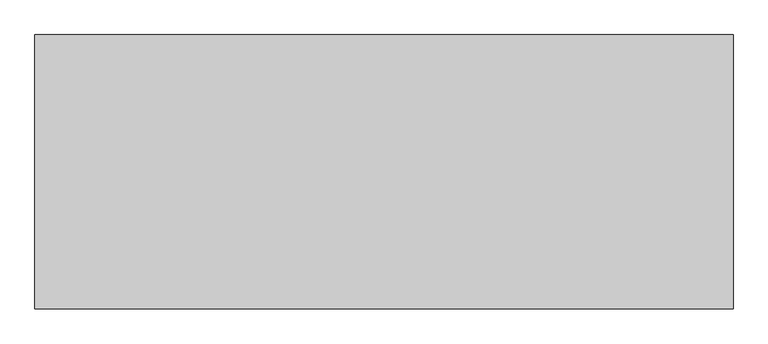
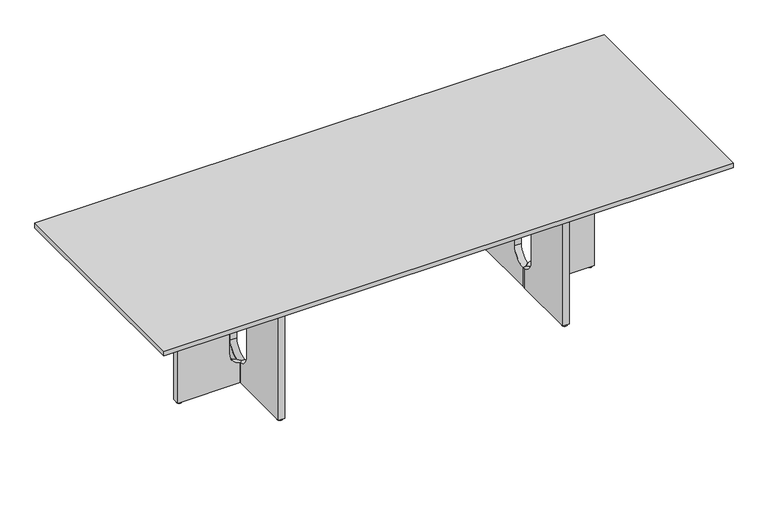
"""IFC4 building model written with IfcOpenShell, lengths in millimetres: furniture geometry, Audo Copenhagen - Androgyne - Dining Table Rectangular - 278 : Audo Copenhagen - Androgyne - Dining Table Rectangular - 278."""

from ifc_helpers import new_model, si_unit, point, frame, frame_2d, origin, origin_with_axes, place, context, project, spatial, polyline, circle_curve, ellipse_curve, trimmed, segment, composite_curve, outline, extrude, source, transform, mapped, element, save
from ifc_brep_helpers import plane_surface, revolved_surface, advanced_brep


def furniture_f7959ec2(model_context):
    return source(origin(), model_context, "Body", "SolidModel", [
        advanced_brep(
        [(683.9999953, -70.0, 177.0), (715.9999953, -70.0, 177.0), (716.0, -16.0000002, 108.8530999), (699.9999977, -2.6e-06, 107.0), (684.0, -2.6e-06, 107.0), (684.0, -16.0000002, 108.8530999), (684.0, -70.0, 538.0), (715.9999953, -70.0, 538.0), (684.0, -16.0000002, 606.1469001), (684.0, -2.6e-06, 608.0), (699.9999977, -2.6e-06, 608.0), (716.0, -16.0000002, 606.1469001), (716.0, -340.0, 708.0), (716.0, -16.0000002, 708.0), (699.9999977, -2.6e-06, 708.0), (684.0, -2.6e-06, 708.0), (684.0, -16.0000002, 708.0), (684.0, -340.0, 708.0), (716.0, -340.0, 7.0), (684.0, -340.0, 7.0), (684.0, -16.0000002, 7.0), (684.0, -2.6e-06, 7.0), (699.9999977, -2.6e-06, 7.0), (716.0, -16.0000002, 7.0)],
        [
            (0, 1),
            (1, 2, circle_curve(frame((716.0, 0.0, 177.0), z_axis=(1.0, 0.0, 0.0), x_axis=(0.0, 1.0, 0.0)), 70.0)),
            (2, 3, ellipse_curve(frame((699.9999951, 0.0, 177.0), z_axis=(0.7071066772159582, 0.7071068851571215, 0.0), x_axis=(0.7071068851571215, -0.7071066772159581, 0.0)), 98.9949639, 70.0)),
            (3, 4),
            (4, 5, circle_curve(frame((684.0, 0.0, 177.0), z_axis=(-1.0, 0.0, 0.0), x_axis=(0.0, 1.0, 0.0)), 70.0)),
            (5, 0, circle_curve(frame((684.0, 0.0, 177.0), z_axis=(-1.0, 0.0, 0.0), x_axis=(0.0, 1.0, 0.0)), 70.0)),
            (0, 6),
            (6, 7),
            (7, 1),
            (6, 8, circle_curve(frame((684.0, 0.0, 538.0), z_axis=(-1.0, 0.0, 0.0), x_axis=(0.0, 1.0, 0.0)), 70.0)),
            (8, 9, circle_curve(frame((684.0, 0.0, 538.0), z_axis=(-1.0, 0.0, 0.0), x_axis=(0.0, 1.0, 0.0)), 70.0)),
            (9, 10),
            (10, 11, ellipse_curve(frame((699.9999951, 0.0, 538.0), z_axis=(0.7071066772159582, 0.7071068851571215, 0.0), x_axis=(0.7071068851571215, -0.7071066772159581, 0.0)), 98.9949639, 70.0)),
            (11, 7, circle_curve(frame((716.0, 0.0, 538.0), z_axis=(1.0, 0.0, 0.0), x_axis=(0.0, 1.0, 0.0)), 70.0)),
            (12, 13),
            (13, 14),
            (14, 15),
            (15, 16),
            (16, 17),
            (17, 12),
            (18, 19),
            (19, 20),
            (20, 21),
            (21, 22),
            (22, 23),
            (23, 18),
            (12, 18),
            (23, 2),
            (11, 13),
            (16, 8),
            (5, 20),
            (19, 17),
            (10, 14),
            (22, 3),
            (15, 9),
            (4, 21),
        ],
        [
            revolved_surface(polyline([(770.0000156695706, 70.0, 177.0), (629.9999745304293, 70.0, 177.0)]), (683.9999953, 0.0, 177.0), (1.0, 0.0, 0.0)),
            plane_surface(frame((715.9999953, -70.0, 538.0), z_axis=(0.0, 1.0, 0.0), x_axis=(-1.0, 0.0, 0.0))),
            revolved_surface(polyline([(770.0000156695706, 70.0, 538.0), (629.9999745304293, 70.0, 538.0)]), (683.9999953, 0.0, 538.0), (1.0, 0.0, 0.0)),
            plane_surface(frame((716.0, -444.0000002, 708.0), z_axis=(0.0, 0.0, 1.0), x_axis=(0.0, 1.0, 0.0))),
            plane_surface(frame((716.0, -444.0000002, 7.0), z_axis=(0.0, 0.0, -1.0), x_axis=(0.0, -1.0, 0.0))),
            plane_surface(frame((716.0, -340.0, 708.0), z_axis=(1.0, 0.0, 0.0), x_axis=(0.0, 0.0, -1.0))),
            plane_surface(frame((684.0, -16.0000002, 708.0), z_axis=(-1.0, 0.0, 0.0), x_axis=(0.0, 0.0, -1.0))),
            plane_surface(frame((684.0, -340.0, 708.0), z_axis=(0.0, -1.0, 0.0), x_axis=(0.0, 0.0, -1.0))),
            plane_surface(frame((716.0, -16.0000002, 708.0), z_axis=(0.7071066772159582, 0.7071068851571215, 0.0), x_axis=(0.0, 0.0, -1.0))),
            plane_surface(frame((684.0, -2.6e-06, 708.0), z_axis=(-1.0, 0.0, 0.0), x_axis=(0.0, 0.0, -1.0))),
            plane_surface(frame((699.9999977, -2.6e-06, 708.0), z_axis=(0.0, 1.0, 0.0), x_axis=(0.0, 0.0, -1.0))),
        ],
        [
            (0, [[1, 2, 3, 4, 5, 6]]),
            (1, [[-1, 7, 8, 9]]),
            (2, [[-8, 10, 11, 12, 13, 14]]),
            (3, [[15, 16, 17, 18, 19, 20]]),
            (4, [[21, 22, 23, 24, 25, 26]]),
            (5, [[-15, 27, -26, 28, -2, -9, -14, 29]]),
            (6, [[-19, 30, -10, -7, -6, 31, -22, 32]]),
            (7, [[-20, -32, -21, -27]]),
            (8, [[-16, -29, -13, 33]]),
            (8, [[-25, 34, -3, -28]]),
            (9, [[-18, 35, -11, -30]]),
            (9, [[-23, -31, -5, 36]]),
            (10, [[-17, -33, -12, -35]]),
            (10, [[-24, -36, -4, -34]]),
        ],
    ),
        advanced_brep(
        [(715.9999953, 70.0, 538.0), (683.9999953, 70.0, 538.0), (684.0, 70.0, 177.0), (715.9999953, 70.0, 177.0), (684.0, 2.6e-06, 107.0), (699.9999977, 2.6e-06, 107.0), (716.0, 16.0000002, 108.8530999), (716.0, 16.0000002, 606.1469001), (699.9999977, 2.6e-06, 608.0), (684.0, 2.6e-06, 608.0), (716.0, 340.0, 708.0), (684.0, 340.0, 708.0), (684.0, 2.6e-06, 708.0), (699.9999977, 2.6e-06, 708.0), (716.0, 16.0000002, 708.0), (716.0, 340.0, 7.0), (716.0, 16.0000002, 7.0), (699.9999977, 2.6e-06, 7.0), (684.0, 2.6e-06, 7.0), (684.0, 340.0, 7.0)],
        [
            (0, 1),
            (1, 2),
            (2, 3),
            (3, 0),
            (2, 4, circle_curve(frame((684.0, 0.0, 177.0), z_axis=(-1.0, 0.0, 0.0), x_axis=(0.0, -1.0, 0.0)), 70.0)),
            (4, 5),
            (5, 6, ellipse_curve(frame((699.9999951, 0.0, 177.0), z_axis=(0.7071066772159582, -0.7071068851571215, 0.0), x_axis=(0.7071068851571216, 0.7071066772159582, 0.0)), 98.9949639, 70.0)),
            (6, 3, circle_curve(frame((716.0, 0.0, 177.0), z_axis=(1.0, 0.0, 0.0), x_axis=(0.0, -1.0, 0.0)), 70.0)),
            (0, 7, circle_curve(frame((716.0, 0.0, 538.0), z_axis=(1.0, 0.0, 0.0), x_axis=(0.0, -1.0, 0.0)), 70.0)),
            (7, 8, ellipse_curve(frame((699.9999951, 0.0, 538.0), z_axis=(0.7071066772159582, -0.7071068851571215, 0.0), x_axis=(0.7071068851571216, 0.7071066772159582, 0.0)), 98.9949639, 70.0)),
            (8, 9),
            (9, 1, circle_curve(frame((684.0, 0.0, 538.0), z_axis=(-1.0, 0.0, 0.0), x_axis=(0.0, -1.0, 0.0)), 70.0)),
            (10, 11),
            (11, 12),
            (12, 13),
            (13, 14),
            (14, 10),
            (15, 16),
            (16, 17),
            (17, 18),
            (18, 19),
            (19, 15),
            (14, 7),
            (6, 16),
            (15, 10),
            (11, 19),
            (18, 4),
            (9, 12),
            (13, 8),
            (5, 17),
        ],
        [
            plane_surface(frame((715.9999953, 70.0, 177.0), z_axis=(0.0, -1.0, 0.0), x_axis=(-1.0, 0.0, 0.0))),
            revolved_surface(polyline([(770.0000156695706, -70.0, 177.0), (629.9999745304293, -70.0, 177.0)]), (683.9999953, 0.0, 177.0), (1.0, 0.0, 0.0)),
            revolved_surface(polyline([(770.0000156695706, -70.0, 538.0), (629.9999745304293, -70.0, 538.0)]), (683.9999953, 0.0, 538.0), (1.0, 0.0, 0.0)),
            plane_surface(frame((685.0, 340.0, 708.0), z_axis=(0.0, 0.0, 1.0), x_axis=(-1.0, 0.0, 0.0))),
            plane_surface(frame((685.0, 340.0, 7.0), z_axis=(0.0, 0.0, -1.0), x_axis=(1.0, 0.0, 0.0))),
            plane_surface(frame((716.0, 16.0000002, 708.0), z_axis=(1.0, 0.0, 0.0), x_axis=(0.0, 0.0, -1.0))),
            plane_surface(frame((684.0, 340.0, 708.0), z_axis=(-1.0, 0.0, 0.0), x_axis=(0.0, 0.0, -1.0))),
            plane_surface(frame((716.0, 340.0, 708.0), z_axis=(0.0, 1.0, 0.0), x_axis=(0.0, 0.0, -1.0))),
            plane_surface(frame((699.9999977, 2.6e-06, 708.0), z_axis=(0.7071066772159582, -0.7071068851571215, 0.0), x_axis=(0.0, 0.0, -1.0))),
            plane_surface(frame((684.0, 2.6e-06, 708.0), z_axis=(0.0, -1.0, 0.0), x_axis=(0.0, 0.0, -1.0))),
        ],
        [
            (0, [[1, 2, 3, 4]]),
            (1, [[-3, 5, 6, 7, 8]]),
            (2, [[-1, 9, 10, 11, 12]]),
            (3, [[13, 14, 15, 16, 17]]),
            (4, [[18, 19, 20, 21, 22]]),
            (5, [[-17, 23, -9, -4, -8, 24, -18, 25]]),
            (6, [[-14, 26, -21, 27, -5, -2, -12, 28]]),
            (7, [[-13, -25, -22, -26]]),
            (8, [[-16, 29, -10, -23]]),
            (8, [[-19, -24, -7, 30]]),
            (9, [[-15, -28, -11, -29]]),
            (9, [[-20, -30, -6, -27]]),
        ],
    ),
        advanced_brep(
        [(1023.9999953, -16.0, 708.0), (1023.9999953, 16.0, 708.0), (715.9999953, 16.0, 708.0), (699.9999977, 2.3e-06, 708.0), (715.9999953, -16.0, 708.0), (1023.9999953, -16.0, 7.0), (715.9999953, -16.0, 7.0), (699.9999977, 2.3e-06, 7.0), (715.9999953, 16.0, 7.0), (1023.9999953, 16.0, 7.0), (715.9999953, -16.0, 606.1469001), (769.9999953, -16.0, 538.0), (769.9999953, -16.0, 177.0), (715.9999953, -16.0, 108.8530999), (715.9999953, 16.0, 108.8530999), (769.9999953, 16.0, 177.0), (769.9999953, 16.0, 538.0), (715.9999953, 16.0, 606.1469001), (699.9999977, 2.3e-06, 608.0), (699.9999977, 2.3e-06, 107.0)],
        [
            (0, 1),
            (1, 2),
            (2, 3),
            (3, 4),
            (4, 0),
            (5, 6),
            (6, 7),
            (7, 8),
            (8, 9),
            (9, 5),
            (4, 10),
            (10, 11, circle_curve(frame((699.9999953, -16.0, 538.0), z_axis=(0.0, 1.0, 0.0), x_axis=(-1.0, 0.0, 0.0)), 70.0)),
            (11, 12),
            (12, 13, circle_curve(frame((699.9999953, -16.0, 177.0), z_axis=(0.0, 1.0, 0.0), x_axis=(-1.0, 0.0, 0.0)), 70.0)),
            (13, 6),
            (5, 0),
            (1, 9),
            (8, 14),
            (14, 15, circle_curve(frame((699.9999953, 16.0, 177.0), z_axis=(0.0, -1.0, 0.0), x_axis=(-1.0, 0.0, 0.0)), 70.0)),
            (15, 16),
            (16, 17, circle_curve(frame((699.9999953, 16.0, 538.0), z_axis=(0.0, -1.0, 0.0), x_axis=(-1.0, 0.0, 0.0)), 70.0)),
            (17, 2),
            (3, 18),
            (18, 10, ellipse_curve(frame((699.9999953, 4.7e-06, 538.0), z_axis=(0.7071068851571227, 0.7071066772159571, 0.0), x_axis=(0.7071066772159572, -0.7071068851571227, 0.0)), 98.9949639, 70.0)),
            (13, 19, ellipse_curve(frame((699.9999953, 4.7e-06, 177.0), z_axis=(0.7071068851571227, 0.7071066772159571, 0.0), x_axis=(0.7071066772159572, -0.7071068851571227, 0.0)), 98.9949639, 70.0)),
            (19, 7),
            (17, 18, ellipse_curve(frame((699.9999953, -2e-07, 538.0), z_axis=(0.707106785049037, -0.7071067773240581, 0.0), x_axis=(-0.707106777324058, -0.7071067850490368, 0.0)), 98.9949499, 70.0)),
            (19, 14, ellipse_curve(frame((699.9999953, -2e-07, 177.0), z_axis=(0.707106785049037, -0.7071067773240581, 0.0), x_axis=(-0.707106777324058, -0.7071067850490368, 0.0)), 98.9949499, 70.0)),
            (11, 16),
            (15, 12),
        ],
        [
            plane_surface(frame((1023.9999953, 15.0, 708.0), z_axis=(0.0, 0.0, 1.0), x_axis=(0.0, 1.0, 0.0))),
            plane_surface(frame((1023.9999953, 15.0, 7.0), z_axis=(0.0, 0.0, -1.0), x_axis=(0.0, -1.0, 0.0))),
            plane_surface(frame((715.9999953, -16.0, 708.0), z_axis=(0.0, -1.0, 0.0), x_axis=(0.0, 0.0, -1.0))),
            plane_surface(frame((1023.9999953, 16.0, 708.0), z_axis=(0.0, 1.0, 0.0), x_axis=(0.0, 0.0, -1.0))),
            plane_surface(frame((1023.9999953, -16.0, 708.0), z_axis=(1.0, 0.0, 0.0), x_axis=(0.0, 0.0, -1.0))),
            plane_surface(frame((699.9999977, 2.3e-06, 708.0), z_axis=(-0.7071068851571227, -0.7071066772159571, 0.0), x_axis=(0.0, 0.0, -1.0))),
            plane_surface(frame((715.9999953, 16.0, 708.0), z_axis=(-0.707106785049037, 0.7071067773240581, 0.0), x_axis=(0.0, 0.0, -1.0))),
            plane_surface(frame((769.9999953, -16.0, 177.0), z_axis=(-1.0, 0.0, 0.0), x_axis=(0.0, 1.0, 0.0))),
            revolved_surface(polyline([(629.9999953, -70.0000158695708, 177.0), (629.9999953, 70.00002526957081, 177.0)]), (699.9999953, 16.0, 177.0), (0.0, -1.0, 0.0)),
            revolved_surface(polyline([(629.9999953, -70.0000158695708, 538.0), (629.9999953, 70.00002526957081, 538.0)]), (699.9999953, 16.0, 538.0), (0.0, -1.0, 0.0)),
        ],
        [
            (0, [[1, 2, 3, 4, 5]]),
            (1, [[6, 7, 8, 9, 10]]),
            (2, [[-5, 11, 12, 13, 14, 15, -6, 16]]),
            (3, [[-2, 17, -9, 18, 19, 20, 21, 22]]),
            (4, [[-1, -16, -10, -17]]),
            (5, [[-4, 23, 24, -11]]),
            (5, [[-7, -15, 25, 26]]),
            (6, [[-3, -22, 27, -23]]),
            (6, [[-8, -26, 28, -18]]),
            (7, [[29, -20, 30, -13]]),
            (8, [[-30, -19, -28, -25, -14]]),
            (9, [[-29, -12, -24, -27, -21]]),
        ],
    ),
        extrude(outline(composite_curve([segment(trimmed(circle_curve(frame_2d((699.9999906, 325.001531)), 12.5), [point((699.9999906, 337.501531))], [point((699.9999906, 312.501531))], False, "CARTESIAN"), True, "CONTINUOUS"), segment(trimmed(circle_curve(frame_2d((699.9999906, 325.001531)), 12.5), [point((699.9999906, 312.501531))], [point((699.9999906, 337.501531))], False, "CARTESIAN"), True, "CONTINUOUS")], self_intersect=False)), origin_with_axes(), (0.0, 0.0, 1.0), 7.0),
        extrude(outline(composite_curve([segment(trimmed(circle_curve(frame_2d((699.9999906, -325.001531)), 12.5), [point((699.9999906, -337.501531))], [point((699.9999906, -312.501531))], False, "CARTESIAN"), True, "CONTINUOUS"), segment(trimmed(circle_curve(frame_2d((699.9999906, -325.001531)), 12.5), [point((699.9999906, -312.501531))], [point((699.9999906, -337.501531))], False, "CARTESIAN"), True, "CONTINUOUS")], self_intersect=False)), origin_with_axes(), (0.0, 0.0, 1.0), 7.0),
        extrude(outline(composite_curve([segment(trimmed(circle_curve(frame_2d((1009.0015265, 0.0)), 12.5), [point((1021.5015265, 0.0))], [point((996.5015265, 0.0))], False, "CARTESIAN"), True, "CONTINUOUS"), segment(trimmed(circle_curve(frame_2d((1009.0015265, 0.0)), 12.5), [point((996.5015265, 0.0))], [point((1021.5015265, 0.0))], False, "CARTESIAN"), True, "CONTINUOUS")], self_intersect=False)), origin_with_axes(), (0.0, 0.0, 1.0), 7.0),
        advanced_brep(
        [(-715.9999953, 70.0, 177.0), (-683.9999953, 70.0, 177.0), (-684.0, 70.0, 538.0), (-715.9999953, 70.0, 538.0), (-716.0, 16.0000002, 108.8530999), (-699.9999977, 2.6e-06, 107.0), (-684.0, 2.6e-06, 107.0), (-684.0, 2.6e-06, 608.0), (-699.9999977, 2.6e-06, 608.0), (-716.0, 16.0000002, 606.1469001), (-716.0, 340.0, 708.0), (-716.0, 16.0000002, 708.0), (-699.9999977, 2.6e-06, 708.0), (-684.0, 2.6e-06, 708.0), (-684.0, 340.0, 708.0), (-716.0, 340.0, 7.0), (-684.0, 340.0, 7.0), (-684.0, 2.6e-06, 7.0), (-699.9999977, 2.6e-06, 7.0), (-716.0, 16.0000002, 7.0)],
        [
            (0, 1),
            (1, 2),
            (2, 3),
            (3, 0),
            (0, 4, circle_curve(frame((-716.0, 0.0, 177.0), z_axis=(-1.0, 0.0, 0.0), x_axis=(0.0, -1.0, 0.0)), 70.0)),
            (4, 5, ellipse_curve(frame((-699.9999951, 0.0, 177.0), z_axis=(-0.7071066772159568, -0.707106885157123, 0.0), x_axis=(-0.7071068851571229, 0.7071066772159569, 0.0)), 98.9949639, 70.0)),
            (5, 6),
            (6, 1, circle_curve(frame((-684.0, 0.0, 177.0), z_axis=(1.0, 0.0, 0.0), x_axis=(0.0, -1.0, 0.0)), 70.0)),
            (2, 7, circle_curve(frame((-684.0, 0.0, 538.0), z_axis=(1.0, 0.0, 0.0), x_axis=(0.0, -1.0, 0.0)), 70.0)),
            (7, 8),
            (8, 9, ellipse_curve(frame((-699.9999951, 0.0, 538.0), z_axis=(-0.7071066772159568, -0.707106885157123, 0.0), x_axis=(-0.7071068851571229, 0.7071066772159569, 0.0)), 98.9949639, 70.0)),
            (9, 3, circle_curve(frame((-716.0, 0.0, 538.0), z_axis=(-1.0, 0.0, 0.0), x_axis=(0.0, -1.0, 0.0)), 70.0)),
            (10, 11),
            (11, 12),
            (12, 13),
            (13, 14),
            (14, 10),
            (15, 16),
            (16, 17),
            (17, 18),
            (18, 19),
            (19, 15),
            (10, 15),
            (19, 4),
            (9, 11),
            (13, 7),
            (6, 17),
            (16, 14),
            (8, 12),
            (18, 5),
        ],
        [
            plane_surface(frame((-715.9999953, 70.0, 538.0), z_axis=(0.0, -1.0, 0.0), x_axis=(1.0, 0.0, 0.0))),
            revolved_surface(polyline([(-770.0000156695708, -70.0, 177.0), (-629.9999745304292, -70.0, 177.0)]), (-683.9999953, 0.0, 177.0), (-1.0, 0.0, 0.0)),
            revolved_surface(polyline([(-770.0000156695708, -70.0, 538.0), (-629.9999745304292, -70.0, 538.0)]), (-683.9999953, 0.0, 538.0), (-1.0, 0.0, 0.0)),
            plane_surface(frame((-716.0, 444.0000002, 708.0), z_axis=(0.0, 0.0, 1.0), x_axis=(0.0, -1.0, 0.0))),
            plane_surface(frame((-716.0, 444.0000002, 7.0), z_axis=(0.0, 0.0, -1.0), x_axis=(0.0, 1.0, 0.0))),
            plane_surface(frame((-716.0, 340.0, 708.0), z_axis=(-1.0, 0.0, 0.0), x_axis=(0.0, 0.0, -1.0))),
            plane_surface(frame((-684.0, 2.6e-06, 708.0), z_axis=(1.0, 0.0, 0.0), x_axis=(0.0, 0.0, -1.0))),
            plane_surface(frame((-684.0, 340.0, 708.0), z_axis=(0.0, 1.0, 0.0), x_axis=(0.0, 0.0, -1.0))),
            plane_surface(frame((-716.0, 16.0000002, 708.0), z_axis=(-0.7071066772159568, -0.707106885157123, 0.0), x_axis=(0.0, 0.0, -1.0))),
            plane_surface(frame((-699.9999977, 2.6e-06, 708.0), z_axis=(0.0, -1.0, 0.0), x_axis=(0.0, 0.0, -1.0))),
        ],
        [
            (0, [[1, 2, 3, 4]]),
            (1, [[-1, 5, 6, 7, 8]]),
            (2, [[-3, 9, 10, 11, 12]]),
            (3, [[13, 14, 15, 16, 17]]),
            (4, [[18, 19, 20, 21, 22]]),
            (5, [[-13, 23, -22, 24, -5, -4, -12, 25]]),
            (6, [[-16, 26, -9, -2, -8, 27, -19, 28]]),
            (7, [[-17, -28, -18, -23]]),
            (8, [[-14, -25, -11, 29]]),
            (8, [[-21, 30, -6, -24]]),
            (9, [[-15, -29, -10, -26]]),
            (9, [[-20, -27, -7, -30]]),
        ],
    ),
        advanced_brep(
        [(-715.9999953, -70.0, 177.0), (-683.9999953, -70.0, 177.0), (-684.0, -16.0000002, 108.8530999), (-684.0, -2.6e-06, 107.0), (-699.9999977, -2.6e-06, 107.0), (-716.0, -16.0000002, 108.8530999), (-716.0, -70.0, 538.0), (-683.9999953, -70.0, 538.0), (-716.0, -16.0000002, 606.1469001), (-699.9999977, -2.6e-06, 608.0), (-684.0, -2.6e-06, 608.0), (-684.0, -16.0000002, 606.1469001), (-716.0, -340.0, 708.0), (-684.0, -340.0, 708.0), (-684.0, -16.0000002, 708.0), (-684.0, -2.6e-06, 708.0), (-699.9999977, -2.6e-06, 708.0), (-716.0, -16.0000002, 708.0), (-716.0, -340.0, 7.0), (-716.0, -16.0000002, 7.0), (-699.9999977, -2.6e-06, 7.0), (-684.0, -2.6e-06, 7.0), (-684.0, -16.0000002, 7.0), (-684.0, -340.0, 7.0)],
        [
            (0, 1),
            (1, 2, circle_curve(frame((-684.0, 0.0, 177.0), z_axis=(1.0, 0.0, 0.0), x_axis=(0.0, 1.0, 0.0)), 70.0)),
            (2, 3, circle_curve(frame((-684.0, 0.0, 177.0), z_axis=(1.0, 0.0, 0.0), x_axis=(0.0, 1.0, 0.0)), 70.0)),
            (3, 4),
            (4, 5, ellipse_curve(frame((-699.9999951, 0.0, 177.0), z_axis=(-0.7071066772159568, 0.707106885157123, 0.0), x_axis=(-0.707106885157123, -0.707106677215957, 0.0)), 98.9949639, 70.0)),
            (5, 0, circle_curve(frame((-716.0, 0.0, 177.0), z_axis=(-1.0, 0.0, 0.0), x_axis=(0.0, 1.0, 0.0)), 70.0)),
            (0, 6),
            (6, 7),
            (7, 1),
            (6, 8, circle_curve(frame((-716.0, 0.0, 538.0), z_axis=(-1.0, 0.0, 0.0), x_axis=(0.0, 1.0, 0.0)), 70.0)),
            (8, 9, ellipse_curve(frame((-699.9999951, 0.0, 538.0), z_axis=(-0.7071066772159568, 0.707106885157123, 0.0), x_axis=(-0.707106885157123, -0.707106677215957, 0.0)), 98.9949639, 70.0)),
            (9, 10),
            (10, 11, circle_curve(frame((-684.0, 0.0, 538.0), z_axis=(1.0, 0.0, 0.0), x_axis=(0.0, 1.0, 0.0)), 70.0)),
            (11, 7, circle_curve(frame((-684.0, 0.0, 538.0), z_axis=(1.0, 0.0, 0.0), x_axis=(0.0, 1.0, 0.0)), 70.0)),
            (12, 13),
            (13, 14),
            (14, 15),
            (15, 16),
            (16, 17),
            (17, 12),
            (18, 19),
            (19, 20),
            (20, 21),
            (21, 22),
            (22, 23),
            (23, 18),
            (17, 8),
            (5, 19),
            (18, 12),
            (13, 23),
            (22, 2),
            (11, 14),
            (16, 9),
            (4, 20),
            (10, 15),
            (21, 3),
        ],
        [
            revolved_surface(polyline([(-770.0000156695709, 70.0, 177.0), (-629.9999745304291, 70.0, 177.0)]), (-683.9999953, 0.0, 177.0), (-1.0, 0.0, 0.0)),
            plane_surface(frame((-715.9999953, -70.0, 177.0), z_axis=(0.0, 1.0, 0.0), x_axis=(1.0, 0.0, 0.0))),
            revolved_surface(polyline([(-770.0000156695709, 70.0, 538.0), (-629.9999745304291, 70.0, 538.0)]), (-683.9999953, 0.0, 538.0), (-1.0, 0.0, 0.0)),
            plane_surface(frame((-685.0, -340.0, 708.0), z_axis=(0.0, 0.0, 1.0), x_axis=(1.0, 0.0, 0.0))),
            plane_surface(frame((-685.0, -340.0, 7.0), z_axis=(0.0, 0.0, -1.0), x_axis=(-1.0, 0.0, 0.0))),
            plane_surface(frame((-716.0, -16.0000002, 708.0), z_axis=(-1.0, 0.0, 0.0), x_axis=(0.0, 0.0, -1.0))),
            plane_surface(frame((-684.0, -340.0, 708.0), z_axis=(1.0, 0.0, 0.0), x_axis=(0.0, 0.0, -1.0))),
            plane_surface(frame((-716.0, -340.0, 708.0), z_axis=(0.0, -1.0, 0.0), x_axis=(0.0, 0.0, -1.0))),
            plane_surface(frame((-699.9999977, -2.6e-06, 708.0), z_axis=(-0.7071066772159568, 0.707106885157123, 0.0), x_axis=(0.0, 0.0, -1.0))),
            plane_surface(frame((-684.0, -16.0000002, 708.0), z_axis=(1.0, 0.0, 0.0), x_axis=(0.0, 0.0, -1.0))),
            plane_surface(frame((-684.0, -2.6e-06, 708.0), z_axis=(0.0, 1.0, 0.0), x_axis=(0.0, 0.0, -1.0))),
        ],
        [
            (0, [[1, 2, 3, 4, 5, 6]]),
            (1, [[-1, 7, 8, 9]]),
            (2, [[-8, 10, 11, 12, 13, 14]]),
            (3, [[15, 16, 17, 18, 19, 20]]),
            (4, [[21, 22, 23, 24, 25, 26]]),
            (5, [[-20, 27, -10, -7, -6, 28, -21, 29]]),
            (6, [[-16, 30, -25, 31, -2, -9, -14, 32]]),
            (7, [[-15, -29, -26, -30]]),
            (8, [[-19, 33, -11, -27]]),
            (8, [[-22, -28, -5, 34]]),
            (9, [[-17, -32, -13, 35]]),
            (9, [[-24, 36, -3, -31]]),
            (10, [[-18, -35, -12, -33]]),
            (10, [[-23, -34, -4, -36]]),
        ],
    ),
        extrude(outline(composite_curve([segment(trimmed(circle_curve(frame_2d((-699.9999906, 325.001531)), 12.5), [point((-699.9999906, 337.501531))], [point((-699.9999906, 312.501531))], False, "CARTESIAN"), True, "CONTINUOUS"), segment(trimmed(circle_curve(frame_2d((-699.9999906, 325.001531)), 12.5), [point((-699.9999906, 312.501531))], [point((-699.9999906, 337.501531))], False, "CARTESIAN"), True, "CONTINUOUS")], self_intersect=False)), origin_with_axes(), (0.0, 0.0, 1.0), 7.0),
        extrude(outline(composite_curve([segment(trimmed(circle_curve(frame_2d((-699.9999906, -325.001531)), 12.5), [point((-699.9999906, -337.501531))], [point((-699.9999906, -312.501531))], False, "CARTESIAN"), True, "CONTINUOUS"), segment(trimmed(circle_curve(frame_2d((-699.9999906, -325.001531)), 12.5), [point((-699.9999906, -312.501531))], [point((-699.9999906, -337.501531))], False, "CARTESIAN"), True, "CONTINUOUS")], self_intersect=False)), origin_with_axes(), (0.0, 0.0, 1.0), 7.0),
        extrude(outline(composite_curve([segment(trimmed(circle_curve(frame_2d((-1009.0015265, 0.0)), 12.5), [point((-1021.5015265, 0.0))], [point((-996.5015265, 0.0))], False, "CARTESIAN"), True, "CONTINUOUS"), segment(trimmed(circle_curve(frame_2d((-1009.0015265, 0.0)), 12.5), [point((-996.5015265, 0.0))], [point((-1021.5015265, 0.0))], False, "CARTESIAN"), True, "CONTINUOUS")], self_intersect=False)), origin_with_axes(), (0.0, 0.0, 1.0), 7.0),
        advanced_brep(
        [(-1023.9999953, -16.0, 708.0), (-715.9999953, -16.0, 708.0), (-699.9999977, 2.3e-06, 708.0), (-715.9999953, 16.0, 708.0), (-1023.9999953, 16.0, 708.0), (-1023.9999953, -16.0, 7.0), (-1023.9999953, 16.0, 7.0), (-715.9999953, 16.0, 7.0), (-699.9999977, 2.3e-06, 7.0), (-715.9999953, -16.0, 7.0), (-715.9999953, -16.0, 108.8530999), (-769.9999953, -16.0, 177.0), (-769.9999953, -16.0, 538.0), (-715.9999953, -16.0, 606.1469001), (-715.9999953, 16.0, 606.1469001), (-769.9999953, 16.0, 538.0), (-769.9999953, 16.0, 177.0), (-715.9999953, 16.0, 108.8530999), (-699.9999977, 2.3e-06, 107.0), (-699.9999977, 2.3e-06, 608.0)],
        [
            (0, 1),
            (1, 2),
            (2, 3),
            (3, 4),
            (4, 0),
            (5, 6),
            (6, 7),
            (7, 8),
            (8, 9),
            (9, 5),
            (0, 5),
            (9, 10),
            (10, 11, circle_curve(frame((-699.9999953, -16.0, 177.0), z_axis=(0.0, 1.0, 0.0), x_axis=(1.0, 0.0, 0.0)), 70.0)),
            (11, 12),
            (12, 13, circle_curve(frame((-699.9999953, -16.0, 538.0), z_axis=(0.0, 1.0, 0.0), x_axis=(1.0, 0.0, 0.0)), 70.0)),
            (13, 1),
            (3, 14),
            (14, 15, circle_curve(frame((-699.9999953, 16.0, 538.0), z_axis=(0.0, -1.0, 0.0), x_axis=(1.0, 0.0, 0.0)), 70.0)),
            (15, 16),
            (16, 17, circle_curve(frame((-699.9999953, 16.0, 177.0), z_axis=(0.0, -1.0, 0.0), x_axis=(1.0, 0.0, 0.0)), 70.0)),
            (17, 7),
            (6, 4),
            (11, 16),
            (15, 12),
            (10, 18, ellipse_curve(frame((-699.9999953, 4.7e-06, 177.0), z_axis=(0.7071068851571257, -0.7071066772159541, 0.0), x_axis=(-0.7071066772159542, -0.7071068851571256, 0.0)), 98.9949639, 70.0)),
            (18, 17, ellipse_curve(frame((-699.9999953, -2e-07, 177.0), z_axis=(0.707106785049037, 0.7071067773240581, 0.0), x_axis=(0.707106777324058, -0.7071067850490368, 0.0)), 98.9949499, 70.0)),
            (14, 19, ellipse_curve(frame((-699.9999953, -2e-07, 538.0), z_axis=(0.707106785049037, 0.7071067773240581, 0.0), x_axis=(0.707106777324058, -0.7071067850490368, 0.0)), 98.9949499, 70.0)),
            (19, 13, ellipse_curve(frame((-699.9999953, 4.7e-06, 538.0), z_axis=(0.7071068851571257, -0.7071066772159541, 0.0), x_axis=(-0.7071066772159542, -0.7071068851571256, 0.0)), 98.9949639, 70.0)),
            (19, 2),
            (8, 18),
        ],
        [
            plane_surface(frame((-1143.9999953, -16.0, 708.0), z_axis=(0.0, 0.0, 1.0), x_axis=(1.0, 0.0, 0.0))),
            plane_surface(frame((-1143.9999953, -16.0, 7.0), z_axis=(0.0, 0.0, -1.0), x_axis=(-1.0, 0.0, 0.0))),
            plane_surface(frame((-1023.9999953, -16.0, 708.0), z_axis=(0.0, -1.0, 0.0), x_axis=(0.0, 0.0, -1.0))),
            plane_surface(frame((-715.9999953, 16.0, 708.0), z_axis=(0.0, 1.0, 0.0), x_axis=(0.0, 0.0, -1.0))),
            plane_surface(frame((-1023.9999953, 16.0, 708.0), z_axis=(-1.0, 0.0, 0.0), x_axis=(0.0, 0.0, -1.0))),
            plane_surface(frame((-769.9999953, -16.0, 538.0), z_axis=(1.0, 0.0, 0.0), x_axis=(0.0, 1.0, 0.0))),
            revolved_surface(polyline([(-629.9999953, -70.00001586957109, 177.0), (-629.9999953, 70.0000252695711, 177.0)]), (-699.9999953, 16.0, 177.0), (0.0, -1.0, 0.0)),
            revolved_surface(polyline([(-629.9999953, -70.00001586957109, 538.0), (-629.9999953, 70.0000252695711, 538.0)]), (-699.9999953, 16.0, 538.0), (0.0, -1.0, 0.0)),
            plane_surface(frame((-715.9999953, -16.0, 708.0), z_axis=(0.7071068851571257, -0.7071066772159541, 0.0), x_axis=(0.0, 0.0, -1.0))),
            plane_surface(frame((-699.9999977, 2.3e-06, 708.0), z_axis=(0.707106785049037, 0.7071067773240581, 0.0), x_axis=(0.0, 0.0, -1.0))),
        ],
        [
            (0, [[1, 2, 3, 4, 5]]),
            (1, [[6, 7, 8, 9, 10]]),
            (2, [[-1, 11, -10, 12, 13, 14, 15, 16]]),
            (3, [[-4, 17, 18, 19, 20, 21, -7, 22]]),
            (4, [[-5, -22, -6, -11]]),
            (5, [[23, -19, 24, -14]]),
            (6, [[-23, -13, 25, 26, -20]]),
            (7, [[-24, -18, 27, 28, -15]]),
            (8, [[-2, -16, -28, 29]]),
            (8, [[-9, 30, -25, -12]]),
            (9, [[-3, -29, -27, -17]]),
            (9, [[-8, -21, -26, -30]]),
        ],
    ),
        extrude(outline(polyline([(-1400.0, 550.0), (1400.0, 550.0), (1400.0, -550.0), (-1400.0, -550.0), (-1400.0, 550.0)])), frame((0.0, 0.0, 708.0), z_axis=(0.0, 0.0, 1.0), x_axis=(1.0, 0.0, 0.0)), (0.0, 0.0, 1.0), 25.0),
    ])


if __name__ == "__main__":
    model = new_model("IFC4")
    model_context = context("Model", 3, world=origin())
    ifc_project = project(units=[si_unit("LENGTHUNIT", "METRE", prefix="MILLI")], contexts=[model_context])
    site = spatial("IfcSite", under=ifc_project)
    building = spatial("IfcBuilding", under=site)
    placement = place(None, origin())
    furniture_shape = furniture_f7959ec2(model_context)
    element("IfcFurniture", 1, ObjectType="Audo Copenhagen - Androgyne - Dining Table Rectangular - 278 : Audo Copenhagen - Androgyne - Dining Table Rectangular - 278", at=placement, inside=building, context=model_context, shape_type="MappedRepresentation", body=[
        mapped(furniture_shape, transform((0.0, 0.0, 0.0), x_axis=(1.0, 0.0, 0.0), y_axis=(0.0, 1.0, 0.0), z_axis=(0.0, 0.0, 1.0))),
    ])
    save(model, "model.ifc")
